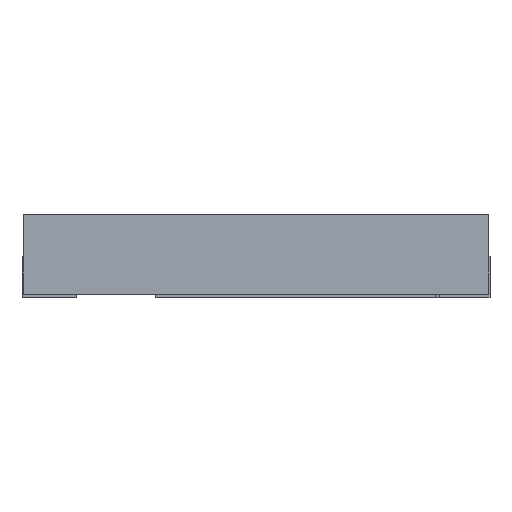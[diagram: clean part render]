
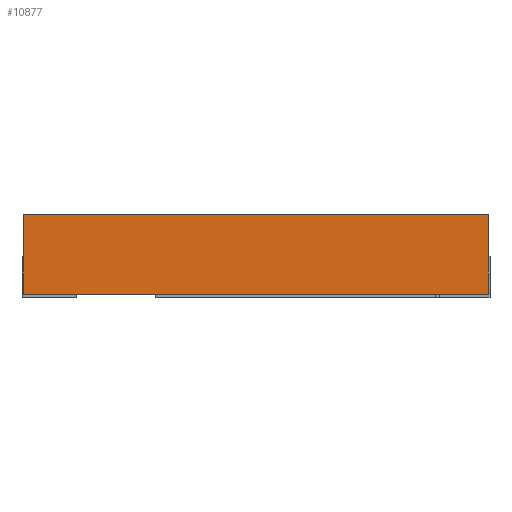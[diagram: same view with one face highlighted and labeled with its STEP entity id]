
A CAD part, front view. The second image highlights one B-rep face of the part: STEP entity #10877.
In plain terms, the highlighted planar face has unit normal (0, -1, 0).
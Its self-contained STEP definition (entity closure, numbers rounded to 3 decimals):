
#1291=PLANE('',#11127);
#1876=FACE_OUTER_BOUND('',#2482,.T.);
#2482=EDGE_LOOP('',(#9998,#9999,#10000,#10001));
#2686=LINE('',#14250,#3574);
#3308=LINE('',#21616,#4196);
#3309=LINE('',#21617,#4197);
#3310=LINE('',#21618,#4198);
#3574=VECTOR('',#11397,6.096);
#4196=VECTOR('',#12275,6.096);
#4197=VECTOR('',#12276,1.041);
#4198=VECTOR('',#12277,1.041);
#4512=VERTEX_POINT('',#14248);
#4513=VERTEX_POINT('',#14249);
#5324=VERTEX_POINT('',#21614);
#5325=VERTEX_POINT('',#21615);
#5684=EDGE_CURVE('',#4512,#4513,#2686,.T.);
#6900=EDGE_CURVE('',#5324,#5325,#3308,.T.);
#6901=EDGE_CURVE('',#4513,#5324,#3309,.T.);
#6902=EDGE_CURVE('',#5325,#4512,#3310,.T.);
#9998=ORIENTED_EDGE('',*,*,#6900,.F.);
#9999=ORIENTED_EDGE('',*,*,#6901,.F.);
#10000=ORIENTED_EDGE('',*,*,#5684,.F.);
#10001=ORIENTED_EDGE('',*,*,#6902,.F.);
#10877=ADVANCED_FACE('',(#1876),#1291,.T.);
#11127=AXIS2_PLACEMENT_3D('',#21613,#12273,#12274);
#11397=DIRECTION('',(1.,0.,0.));
#12273=DIRECTION('center_axis',(0.,-1.,0.));
#12274=DIRECTION('ref_axis',(0.,0.,1.));
#12275=DIRECTION('',(-1.,0.,0.));
#12276=DIRECTION('',(0.,0.,-1.));
#12277=DIRECTION('',(0.,0.,1.));
#14248=CARTESIAN_POINT('',(-3.048,-2.578,1.092));
#14249=CARTESIAN_POINT('',(3.048,-2.578,1.092));
#14250=CARTESIAN_POINT('',(-3.048,-2.578,1.092));
#21613=CARTESIAN_POINT('Origin',(-3.048,-2.578,0.051));
#21614=CARTESIAN_POINT('',(3.048,-2.578,0.051));
#21615=CARTESIAN_POINT('',(-3.048,-2.578,0.051));
#21616=CARTESIAN_POINT('',(3.048,-2.578,0.051));
#21617=CARTESIAN_POINT('',(3.048,-2.578,1.092));
#21618=CARTESIAN_POINT('',(-3.048,-2.578,0.051));
